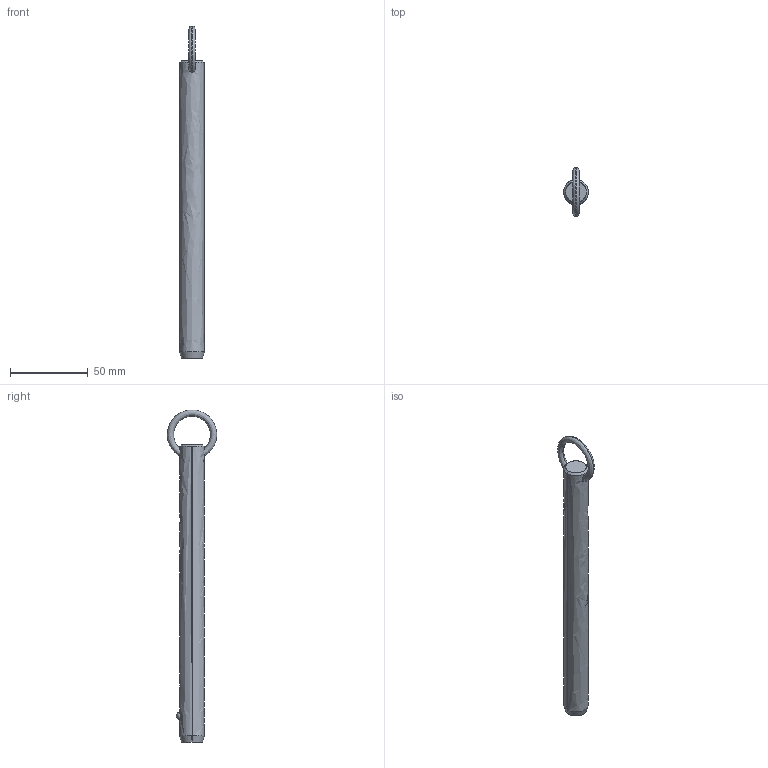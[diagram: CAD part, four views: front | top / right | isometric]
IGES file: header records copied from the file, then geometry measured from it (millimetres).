
Start section: SolidWorks IGES file using analytic representation for surfaces
Global section: file name: C:\Users\liam_\OneDrive\Documents\WORK\Work for WixRoyd\Job Files\J-00019 - Matt Davis CAD Checking\04. CAD Drawings\automotion20190605\P1250.2_v2\P1250.2_v2_20190729_IGES\P1250.062-640.igs; native system: SolidWorks 2017; preprocessor: SolidWorks 2017; author: liam_; date: 190729.234233; units: millimetre
Bounding box: 15.8 x 31.69 x 213.3 mm (x, y, z)
Surface area: 10659.5 mm2 (no closed solid volume)
Topology: 0 solids, 0 shells, 12 faces, 292 edges, 290 vertices
Faces by surface type: revolution 8, bspline 4
